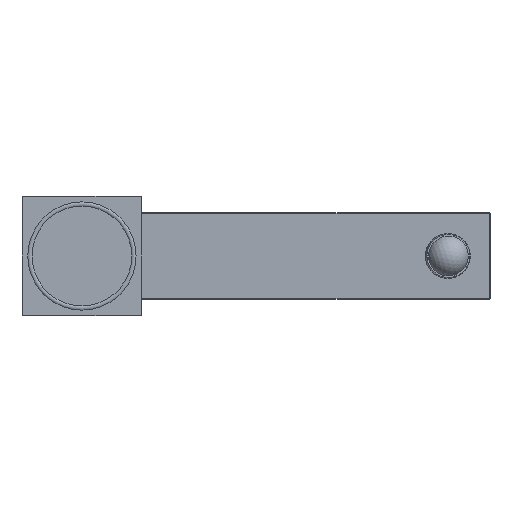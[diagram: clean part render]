
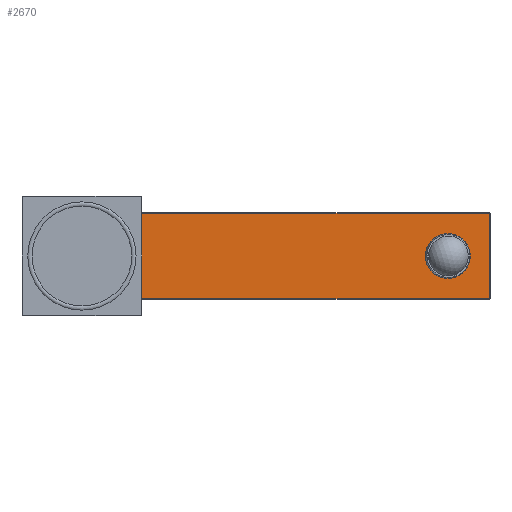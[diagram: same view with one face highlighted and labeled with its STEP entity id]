
A CAD part, front view. The second image highlights one B-rep face of the part: STEP entity #2670.
In plain terms, the highlighted planar face has unit normal (0, -1, 0).
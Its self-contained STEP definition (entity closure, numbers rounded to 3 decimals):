
#50=FACE_BOUND('',#675,.T.);
#269=CIRCLE('',#2899,9.375);
#483=FACE_OUTER_BOUND('',#674,.T.);
#674=EDGE_LOOP('',(#2164,#2165,#2166,#2167));
#675=EDGE_LOOP('',(#2168,#2169));
#740=ELLIPSE('',#2907,9.459,9.423);
#881=LINE('',#4584,#1048);
#882=LINE('',#4586,#1049);
#883=LINE('',#4587,#1050);
#884=LINE('',#4588,#1051);
#1048=VECTOR('',#3735,149.75);
#1049=VECTOR('',#3736,35.5);
#1050=VECTOR('',#3737,149.75);
#1051=VECTOR('',#3738,35.5);
#1190=VERTEX_POINT('',#4381);
#1191=VERTEX_POINT('',#4382);
#1237=VERTEX_POINT('',#4567);
#1240=VERTEX_POINT('',#4575);
#1243=VERTEX_POINT('',#4583);
#1244=VERTEX_POINT('',#4585);
#1476=EDGE_CURVE('',#1190,#1191,#269,.T.);
#1481=EDGE_CURVE('',#1191,#1190,#740,.T.);
#1557=EDGE_CURVE('',#1243,#1237,#881,.T.);
#1558=EDGE_CURVE('',#1244,#1243,#882,.T.);
#1559=EDGE_CURVE('',#1240,#1244,#883,.T.);
#1560=EDGE_CURVE('',#1237,#1240,#884,.T.);
#2164=ORIENTED_EDGE('',*,*,#1557,.F.);
#2165=ORIENTED_EDGE('',*,*,#1558,.F.);
#2166=ORIENTED_EDGE('',*,*,#1559,.F.);
#2167=ORIENTED_EDGE('',*,*,#1560,.F.);
#2168=ORIENTED_EDGE('',*,*,#1476,.T.);
#2169=ORIENTED_EDGE('',*,*,#1481,.T.);
#2362=PLANE('',#2979);
#2670=ADVANCED_FACE('',(#483,#50),#2362,.T.);
#2899=AXIS2_PLACEMENT_3D('',#4383,#3535,#3536);
#2907=AXIS2_PLACEMENT_3D('',#4394,#3551,#3552);
#2979=AXIS2_PLACEMENT_3D('',#4582,#3733,#3734);
#3535=DIRECTION('center_axis',(0.,1.,0.));
#3536=DIRECTION('ref_axis',(0.,0.,1.));
#3551=DIRECTION('center_axis',(0.,1.,0.));
#3552=DIRECTION('ref_axis',(1.,0.,0.));
#3733=DIRECTION('center_axis',(0.,-1.,0.));
#3734=DIRECTION('ref_axis',(0.,0.,-1.));
#3735=DIRECTION('',(-1.,0.,0.));
#3736=DIRECTION('',(0.,0.,-1.));
#3737=DIRECTION('',(1.,0.,0.));
#3738=DIRECTION('',(0.,0.,1.));
#4381=CARTESIAN_POINT('',(143.915,227.,3.366));
#4382=CARTESIAN_POINT('',(143.915,227.,-3.366));
#4383=CARTESIAN_POINT('Origin',(152.665,227.,0.));
#4394=CARTESIAN_POINT('Origin',(152.75,227.,0.));
#4567=CARTESIAN_POINT('',(20.25,227.,-17.75));
#4575=CARTESIAN_POINT('',(20.25,227.,17.75));
#4582=CARTESIAN_POINT('Origin',(20.25,227.,-18.));
#4583=CARTESIAN_POINT('',(170.,227.,-17.75));
#4584=CARTESIAN_POINT('',(20.25,227.,-17.75));
#4585=CARTESIAN_POINT('',(170.,227.,17.75));
#4586=CARTESIAN_POINT('',(170.,227.,-18.));
#4587=CARTESIAN_POINT('',(20.25,227.,17.75));
#4588=CARTESIAN_POINT('',(20.25,227.,0.));
